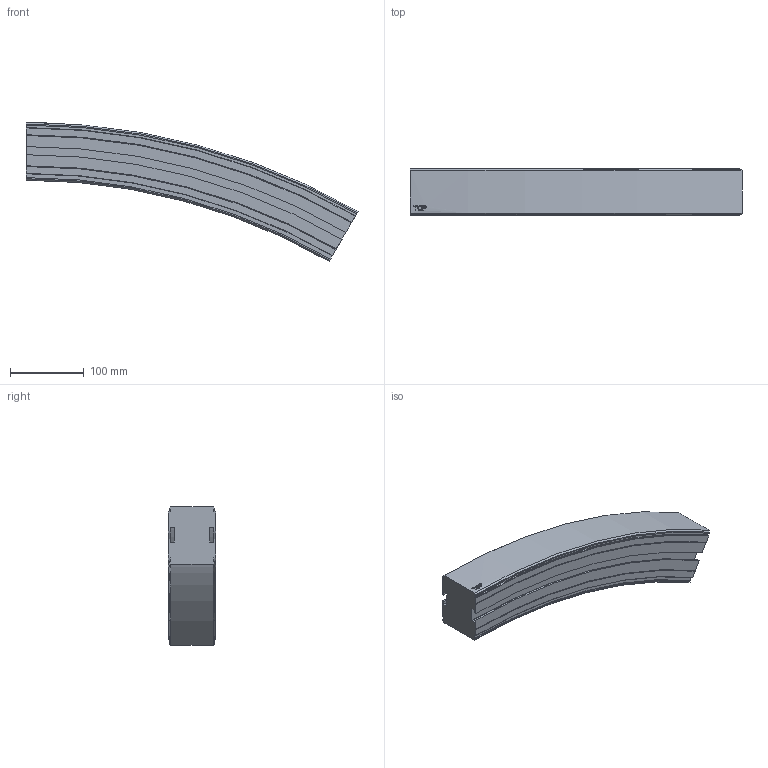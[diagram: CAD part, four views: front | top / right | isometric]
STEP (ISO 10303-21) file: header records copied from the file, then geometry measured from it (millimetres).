
FILE_DESCRIPTION((''),'2;1');
FILE_NAME('C:\Vault Klient\Projekt\Koncept konstruktion\Serie 620 Balk\620-5660_DOWN.stp','2009-11-26T15:53:02',('Mathias'),(''),'Autodesk Inventor 2010','Autodesk Inventor 2010','');
FILE_SCHEMA(('AUTOMOTIVE_DESIGN { 1 0 10303 214 1 1 1 1 }'));
Length unit declared in the file: millimetre
Products named in the file (1): 620-5660_DOWN
Bounding box: 449 x 64 x 187.86 mm (x, y, z)
Volume: 2091651.7 mm3; surface area: 171498.8 mm2
Topology: 1 solids, 1 shells, 93 faces, 258 edges, 172 vertices
Faces by surface type: plane 40, cylinder 23, bspline 14, cone 12, torus 4
Entity records: 3454 total; most frequent: CARTESIAN_POINT 1019, ORIENTED_EDGE 516, DIRECTION 472, EDGE_CURVE 258, VERTEX_POINT 172, AXIS2_PLACEMENT_3D 162, VECTOR 148, LINE 148
